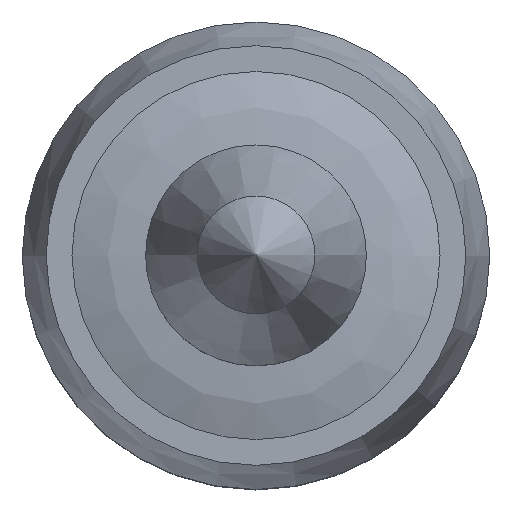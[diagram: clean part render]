
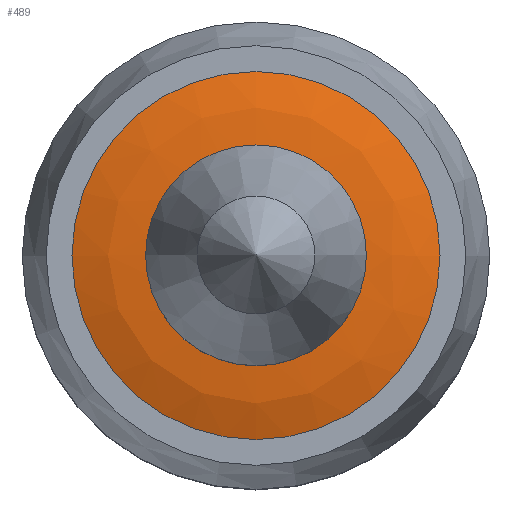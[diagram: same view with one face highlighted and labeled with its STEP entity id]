
A CAD part, top view. The second image highlights one B-rep face of the part: STEP entity #489.
In plain terms, the highlighted free-form (B-spline) face has degree [2, 2] with [3, 9] control points.
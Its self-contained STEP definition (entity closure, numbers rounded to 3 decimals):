
#14=(
BOUNDED_SURFACE()
B_SPLINE_SURFACE(2,2,((#841,#842,#843,#844,#845,#846,#847,#848,#849),(#850,
#851,#852,#853,#854,#855,#856,#857,#858),(#859,#860,#861,#862,#863,#864,
#865,#866,#867)),.UNSPECIFIED.,.F.,.T.,.F.)
B_SPLINE_SURFACE_WITH_KNOTS((3,3),(3,2,2,2,3),(-1.571,-1.176),
(-3.142,-1.571,0.,1.571,3.142),
 .UNSPECIFIED.)
GEOMETRIC_REPRESENTATION_ITEM()
RATIONAL_B_SPLINE_SURFACE(((1.,0.707,1.,0.707,1.,
0.707,1.,0.707,1.),(0.981,0.693,
0.981,0.693,0.981,0.693,0.981,
0.693,0.981),(1.,0.707,1.,0.707,
1.,0.707,1.,0.707,1.)))
REPRESENTATION_ITEM('')
SURFACE()
);
#143=FACE_OUTER_BOUND('',#182,.T.);
#182=EDGE_LOOP('',(#413,#414,#415,#416));
#213=CIRCLE('',#565,15.);
#214=CIRCLE('',#566,25.);
#215=CIRCLE('',#567,26.);
#252=VERTEX_POINT('',#838);
#253=VERTEX_POINT('',#868);
#306=EDGE_CURVE('',#252,#252,#213,.T.);
#308=EDGE_CURVE('',#253,#253,#214,.T.);
#309=EDGE_CURVE('',#253,#252,#215,.T.);
#413=ORIENTED_EDGE('',*,*,#308,.F.);
#414=ORIENTED_EDGE('',*,*,#309,.T.);
#415=ORIENTED_EDGE('',*,*,#306,.T.);
#416=ORIENTED_EDGE('',*,*,#309,.F.);
#489=ADVANCED_FACE('',(#143),#14,.F.);
#565=AXIS2_PLACEMENT_3D('',#839,#699,#700);
#566=AXIS2_PLACEMENT_3D('',#869,#702,#703);
#567=AXIS2_PLACEMENT_3D('',#870,#704,#705);
#699=DIRECTION('center_axis',(0.,0.,-1.));
#700=DIRECTION('ref_axis',(1.,0.,0.));
#702=DIRECTION('center_axis',(0.,0.,-1.));
#703=DIRECTION('ref_axis',(1.,0.,0.));
#704=DIRECTION('center_axis',(0.,-1.,0.));
#705=DIRECTION('ref_axis',(1.,0.,0.));
#838=CARTESIAN_POINT('',(15.,0.,98.));
#839=CARTESIAN_POINT('Origin',(0.,0.,98.));
#841=CARTESIAN_POINT('Ctrl Pts',(15.,0.,98.));
#842=CARTESIAN_POINT('Ctrl Pts',(15.,-15.,98.));
#843=CARTESIAN_POINT('Ctrl Pts',(0.,-15.,98.));
#844=CARTESIAN_POINT('Ctrl Pts',(-15.,-15.,98.));
#845=CARTESIAN_POINT('Ctrl Pts',(-15.,0.,98.));
#846=CARTESIAN_POINT('Ctrl Pts',(-15.,15.,98.));
#847=CARTESIAN_POINT('Ctrl Pts',(0.,15.,98.));
#848=CARTESIAN_POINT('Ctrl Pts',(15.,15.,98.));
#849=CARTESIAN_POINT('Ctrl Pts',(15.,0.,98.));
#850=CARTESIAN_POINT('Ctrl Pts',(20.2,0.,98.));
#851=CARTESIAN_POINT('Ctrl Pts',(20.2,-20.2,98.));
#852=CARTESIAN_POINT('Ctrl Pts',(0.,-20.2,
98.));
#853=CARTESIAN_POINT('Ctrl Pts',(-20.2,-20.2,98.));
#854=CARTESIAN_POINT('Ctrl Pts',(-20.2,0.,98.));
#855=CARTESIAN_POINT('Ctrl Pts',(-20.2,20.2,98.));
#856=CARTESIAN_POINT('Ctrl Pts',(0.,20.2,
98.));
#857=CARTESIAN_POINT('Ctrl Pts',(20.2,20.2,98.));
#858=CARTESIAN_POINT('Ctrl Pts',(20.2,0.,98.));
#859=CARTESIAN_POINT('Ctrl Pts',(25.,0.,96.));
#860=CARTESIAN_POINT('Ctrl Pts',(25.,-25.,96.));
#861=CARTESIAN_POINT('Ctrl Pts',(0.,-25.,
96.));
#862=CARTESIAN_POINT('Ctrl Pts',(-25.,-25.,96.));
#863=CARTESIAN_POINT('Ctrl Pts',(-25.,0.,96.));
#864=CARTESIAN_POINT('Ctrl Pts',(-25.,25.,96.));
#865=CARTESIAN_POINT('Ctrl Pts',(0.,25.,
96.));
#866=CARTESIAN_POINT('Ctrl Pts',(25.,25.,96.));
#867=CARTESIAN_POINT('Ctrl Pts',(25.,0.,96.));
#868=CARTESIAN_POINT('',(25.,0.,96.));
#869=CARTESIAN_POINT('Origin',(0.,0.,96.));
#870=CARTESIAN_POINT('Origin',(15.,0.,72.));
